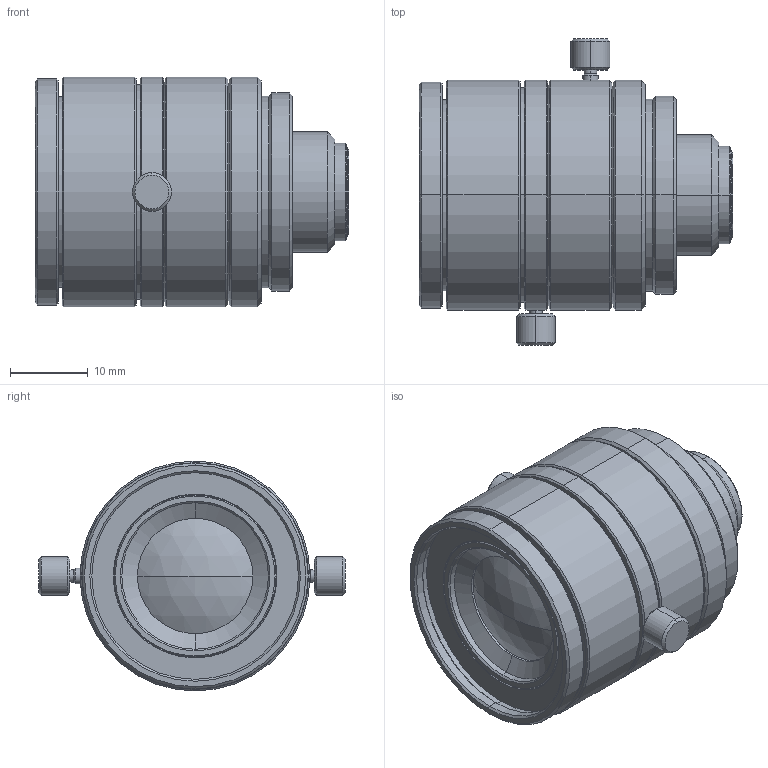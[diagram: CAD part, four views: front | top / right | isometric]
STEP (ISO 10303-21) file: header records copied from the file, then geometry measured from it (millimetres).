
FILE_DESCRIPTION (( 'STEP AP203' ), '1' );
FILE_NAME ('VS-LDA4.STEP', '2017-01-05T01:01:20', ( '' ), ( '' ), 'SwSTEP 2.0', 'SolidWorks 2017', '' );
FILE_SCHEMA (( 'CONFIG_CONTROL_DESIGN' ));
Length unit declared in the file: millimetre
Products named in the file (1): VS-LDA4
Bounding box: 40.28 x 39.3 x 29.5 mm (x, y, z)
Volume: 19484.5 mm3; surface area: 8143.1 mm2
Topology: 1 solids, 1 shells, 178 faces, 358 edges, 211 vertices
Faces by surface type: cone 83, cylinder 62, plane 29, sphere 4
Entity records: 4754 total; most frequent: DIRECTION 921, CARTESIAN_POINT 807, ORIENTED_EDGE 716, AXIS2_PLACEMENT_3D 389, EDGE_CURVE 358, VERTEX_POINT 211, CIRCLE 210, EDGE_LOOP 207
